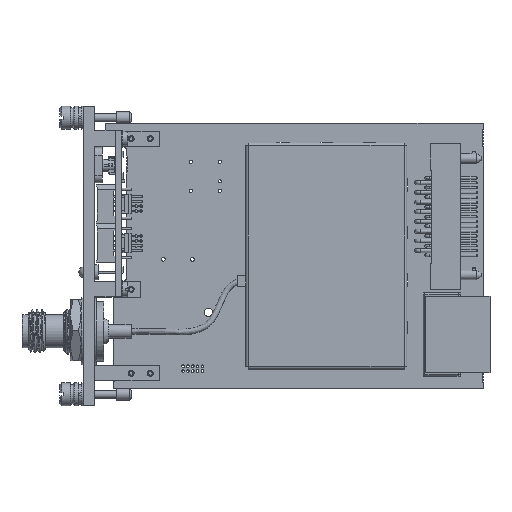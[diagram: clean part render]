
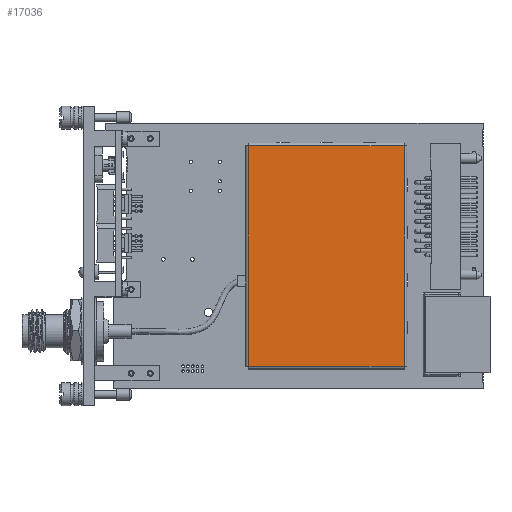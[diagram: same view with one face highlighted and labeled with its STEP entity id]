
A CAD part, top view. The second image highlights one B-rep face of the part: STEP entity #17036.
In plain terms, the highlighted planar face has unit normal (0, 0, 1).
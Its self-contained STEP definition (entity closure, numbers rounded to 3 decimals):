
#17036=ADVANCED_FACE('',(#69372),#69374,.F.);
#69372=FACE_BOUND('',#69373,.T.);
#69373=EDGE_LOOP('',(#124112,#124113,#124114,#124115));
#69374=PLANE('',#69375);
#69375=AXIS2_PLACEMENT_3D('',#69376,#69377,#69378);
#69376=CARTESIAN_POINT('',(78.3,63.62,13.7));
#69377=DIRECTION('',(0.,0.,-1.));
#69378=DIRECTION('',(0.,-1.,0.));
#124112=ORIENTED_EDGE('',*,*,#150475,.T.);
#124113=ORIENTED_EDGE('',*,*,#150494,.T.);
#124114=ORIENTED_EDGE('',*,*,#150426,.T.);
#124115=ORIENTED_EDGE('',*,*,#150457,.T.);
#150426=EDGE_CURVE('',#170600,#170598,#170601,.T.);
#150457=EDGE_CURVE('',#170598,#170633,#170636,.T.);
#150475=EDGE_CURVE('',#170633,#170653,#170655,.T.);
#150494=EDGE_CURVE('',#170653,#170600,#170675,.T.);
#170598=VERTEX_POINT('',#208735);
#170600=VERTEX_POINT('',#208740);
#170601=LINE('',#208741,#208742);
#170633=VERTEX_POINT('',#208837);
#170636=LINE('',#208845,#208846);
#170653=VERTEX_POINT('',#208896);
#170655=LINE('',#208901,#208902);
#170675=LINE('',#208963,#208964);
#208735=CARTESIAN_POINT('',(37.5,5.82,13.7));
#208740=CARTESIAN_POINT('',(37.5,63.62,13.7));
#208741=CARTESIAN_POINT('',(37.5,63.62,13.7));
#208742=VECTOR('',#208743,1.);
#208743=DIRECTION('',(0.,-1.,0.));
#208837=CARTESIAN_POINT('',(78.3,5.82,13.7));
#208845=CARTESIAN_POINT('',(37.5,5.82,13.7));
#208846=VECTOR('',#208847,1.);
#208847=DIRECTION('',(1.,0.,0.));
#208896=CARTESIAN_POINT('',(78.3,63.62,13.7));
#208901=CARTESIAN_POINT('',(78.3,5.82,13.7));
#208902=VECTOR('',#208903,1.);
#208903=DIRECTION('',(0.,1.,0.));
#208963=CARTESIAN_POINT('',(78.3,63.62,13.7));
#208964=VECTOR('',#208965,1.);
#208965=DIRECTION('',(-1.,0.,0.));
